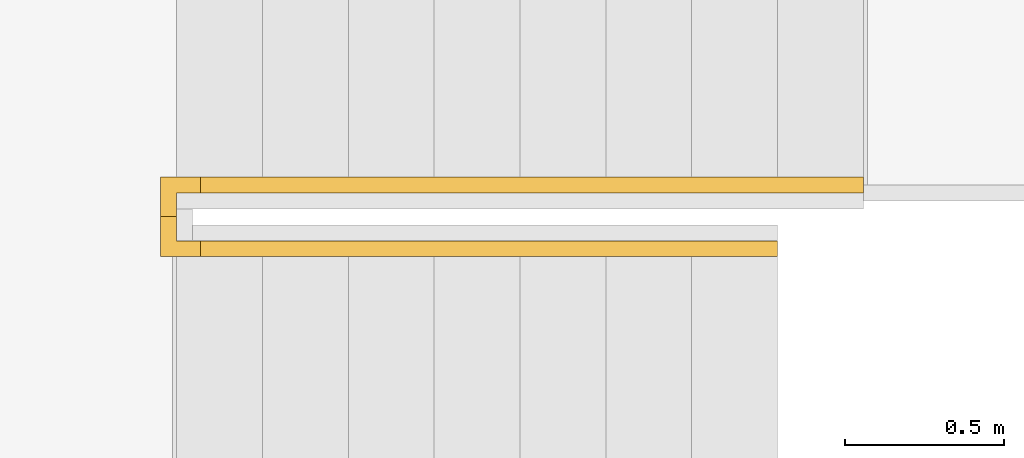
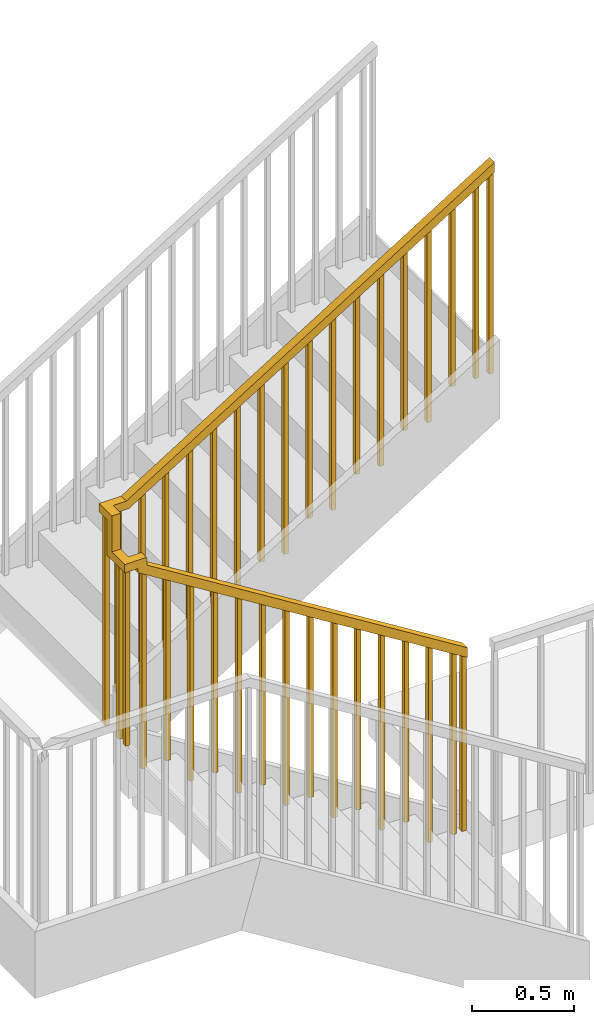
# One storey, part 11 of 14: 1 railing, 1 element without a shape of its own.
"""IFC2X3 building model written with IfcOpenShell, lengths in millimetres."""

from ifc_helpers import new_model, entity, si_unit, converted_unit, derived_unit, direction, frame, origin, place, context, subcontext, project, spatial, faceted_brep, element, aggregate, save


model = new_model("IFC2X3")

# Units and contexts
model_context = context("Model", 3, precision=0.01, world=origin(), true_north=direction((4.05803320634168e-15, -1.0)))
body_context = subcontext(model_context, "Body", "Model", "MODEL_VIEW")
ifc_project = project(units=[si_unit("LENGTHUNIT", "METRE", prefix="MILLI"), si_unit("AREAUNIT", "SQUARE_METRE"), si_unit("VOLUMEUNIT", "CUBIC_METRE"), converted_unit("PLANEANGLEUNIT", "DEGREE", entity("IfcRatioMeasure", 0.0174532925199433), si_unit("PLANEANGLEUNIT", "RADIAN"), dimensions=[0, 0, 0, 0, 0, 0, 0]), si_unit("MASSUNIT", "GRAM", prefix="KILO"), derived_unit("MASSDENSITYUNIT", [(si_unit("MASSUNIT", "GRAM", prefix="KILO"), 1), (si_unit("LENGTHUNIT", "METRE"), -3)]), si_unit("TIMEUNIT", "SECOND"), si_unit("FREQUENCYUNIT", "HERTZ"), si_unit("THERMODYNAMICTEMPERATUREUNIT", "DEGREE_CELSIUS"), derived_unit("THERMALTRANSMITTANCEUNIT", [(si_unit("MASSUNIT", "GRAM", prefix="KILO"), 1), (si_unit("THERMODYNAMICTEMPERATUREUNIT", "KELVIN"), -1), (si_unit("TIMEUNIT", "SECOND"), -3)]), derived_unit("VOLUMETRICFLOWRATEUNIT", [(si_unit("LENGTHUNIT", "METRE"), 3), (si_unit("TIMEUNIT", "SECOND"), -1)]), si_unit("ELECTRICCURRENTUNIT", "AMPERE"), si_unit("ELECTRICVOLTAGEUNIT", "VOLT"), si_unit("POWERUNIT", "WATT"), si_unit("FORCEUNIT", "NEWTON", prefix="KILO"), si_unit("ILLUMINANCEUNIT", "LUX"), si_unit("LUMINOUSFLUXUNIT", "LUMEN"), si_unit("LUMINOUSINTENSITYUNIT", "CANDELA"), derived_unit("USERDEFINED", [(si_unit("MASSUNIT", "GRAM", prefix="KILO"), -1), (si_unit("LENGTHUNIT", "METRE"), -2), (si_unit("TIMEUNIT", "SECOND"), 3), (si_unit("LUMINOUSFLUXUNIT", "LUMEN"), 1)]), derived_unit("LINEARVELOCITYUNIT", [(si_unit("LENGTHUNIT", "METRE"), 1), (si_unit("TIMEUNIT", "SECOND"), -1)]), si_unit("PRESSUREUNIT", "PASCAL"), derived_unit("USERDEFINED", [(si_unit("LENGTHUNIT", "METRE"), -2), (si_unit("MASSUNIT", "GRAM", prefix="KILO"), 1), (si_unit("TIMEUNIT", "SECOND"), -2)])], contexts=[model_context])

# Site, building, storey
site_placement = place(None, frame((927466.849349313, 583801.882853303, 0.0), z_axis=(0.0, 0.0, 1.0), x_axis=(-1.0, 0.0, 0.0)))
site = spatial("IfcSite", under=ifc_project, at=site_placement, Name="Surface", CompositionType="ELEMENT")
building_placement = place(site_placement, origin())
building = spatial("IfcBuilding", under=site, at=building_placement, CompositionType="ELEMENT")
storey_placement = place(building_placement, frame((0.0, 0.0, 48170.0)))
storey = spatial("IfcBuildingStorey", under=building, at=storey_placement, Name="First floor", CompositionType="ELEMENT", Elevation=48170.0)

# Stair, railing
stair_placement = place(storey_placement, origin())
stair = element("IfcStair", 1, at=stair_placement, inside=storey, Name="Assembled Stair:Stair", ObjectType="Assembled Stair:170mm max riser 270mm going 1500", ShapeType="NOTDEFINED")
railing_placement = place(stair_placement, frame((-77968.5913038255, 13246.7010509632, 168.065094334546)))
railing = element("IfcRailing", 2, at=railing_placement, Name="Railing:1100mm", ObjectType="Railing:1100mm", PredefinedType="NOTDEFINED", context=body_context, shape_type="Brep", body=[
    faceted_brep([(105.400000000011, 12.500000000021, 3664.53861803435), (105.400000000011, 12.500000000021, 2520.97641501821), (105.400000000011, 37.5000000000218, 2520.97641501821), (105.400000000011, 37.5000000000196, 3664.53861803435), (80.4000000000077, 37.5000000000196, 2520.97641501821), (80.4000000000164, 37.5000000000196, 3680.10020084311), (80.4000000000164, 12.5000000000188, 2520.97641501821), (80.4000000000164, 12.500000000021, 3680.10020084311)], [[[0, 1, 2, 3]], [[3, 2, 4, 5]], [[5, 4, 6, 7]], [[1, 0, 7, 6]], [[0, 3, 5, 7]], [[2, 1, 6, 4]]]),
    faceted_brep([(240.400000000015, 12.500000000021, 3580.50607086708), (240.400000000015, 12.500000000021, 2520.97641501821), (240.400000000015, 37.5000000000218, 2520.97641501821), (240.400000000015, 37.5000000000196, 3580.50607086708), (215.400000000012, 37.5000000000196, 2520.97641501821), (215.40000000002, 37.5000000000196, 3596.06765367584), (215.40000000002, 12.5000000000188, 2520.97641501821), (215.40000000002, 12.500000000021, 3596.06765367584)], [[[0, 1, 2, 3]], [[3, 2, 4, 5]], [[5, 4, 6, 7]], [[1, 0, 7, 6]], [[0, 3, 5, 7]], [[2, 1, 6, 4]]]),
    faceted_brep([(375.40000000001, 12.5000000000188, 3496.47352369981), (375.40000000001, 12.5000000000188, 2352.91132068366), (375.40000000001, 37.5000000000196, 2352.91132068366), (375.40000000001, 37.5000000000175, 3496.47352369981), (350.400000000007, 37.5000000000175, 2352.91132068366), (350.400000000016, 37.5000000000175, 3512.03510650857), (350.400000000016, 12.5000000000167, 2352.91132068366), (350.400000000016, 12.5000000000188, 3512.03510650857)], [[[0, 1, 2, 3]], [[3, 2, 4, 5]], [[5, 4, 6, 7]], [[1, 0, 7, 6]], [[0, 3, 5, 7]], [[2, 1, 6, 4]]]),
    faceted_brep([(510.400000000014, 12.5000000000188, 3412.44097653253), (510.400000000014, 12.5000000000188, 2352.91132068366), (510.400000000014, 37.5000000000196, 2352.91132068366), (510.400000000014, 37.5000000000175, 3412.44097653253), (485.400000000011, 37.5000000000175, 2352.91132068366), (485.40000000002, 37.5000000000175, 3428.00255934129), (485.40000000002, 12.5000000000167, 2352.91132068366), (485.40000000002, 12.5000000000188, 3428.00255934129)], [[[0, 1, 2, 3]], [[3, 2, 4, 5]], [[5, 4, 6, 7]], [[1, 0, 7, 6]], [[0, 3, 5, 7]], [[2, 1, 6, 4]]]),
    faceted_brep([(645.400000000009, 12.5000000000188, 3328.40842936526), (645.400000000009, 12.5000000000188, 2184.84622634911), (645.400000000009, 37.5000000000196, 2184.84622634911), (645.400000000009, 37.5000000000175, 3328.40842936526), (620.400000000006, 37.5000000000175, 2184.84622634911), (620.400000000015, 37.5000000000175, 3343.97001217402), (620.400000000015, 12.5000000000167, 2184.84622634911), (620.400000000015, 12.5000000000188, 3343.97001217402)], [[[0, 1, 2, 3]], [[3, 2, 4, 5]], [[5, 4, 6, 7]], [[1, 0, 7, 6]], [[0, 3, 5, 7]], [[2, 1, 6, 4]]]),
    faceted_brep([(780.400000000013, 12.5000000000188, 3244.37588219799), (780.400000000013, 12.5000000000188, 2184.84622634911), (780.400000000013, 37.5000000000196, 2184.84622634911), (780.400000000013, 37.5000000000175, 3244.37588219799), (755.40000000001, 37.5000000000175, 2184.84622634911), (755.400000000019, 37.5000000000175, 3259.93746500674), (755.400000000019, 12.5000000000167, 2184.84622634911), (755.400000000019, 12.5000000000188, 3259.93746500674)], [[[0, 1, 2, 3]], [[3, 2, 4, 5]], [[5, 4, 6, 7]], [[1, 0, 7, 6]], [[0, 3, 5, 7]], [[2, 1, 6, 4]]]),
    faceted_brep([(915.400000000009, 12.5000000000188, 3160.34333503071), (915.400000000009, 12.5000000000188, 2016.78113201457), (915.400000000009, 37.5000000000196, 2016.78113201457), (915.400000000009, 37.5000000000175, 3160.34333503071), (890.400000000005, 37.5000000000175, 2016.78113201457), (890.400000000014, 37.5000000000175, 3175.90491783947), (890.400000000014, 12.5000000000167, 2016.78113201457), (890.400000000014, 12.5000000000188, 3175.90491783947)], [[[0, 1, 2, 3]], [[3, 2, 4, 5]], [[5, 4, 6, 7]], [[1, 0, 7, 6]], [[0, 3, 5, 7]], [[2, 1, 6, 4]]]),
    faceted_brep([(1050.40000000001, 12.5000000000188, 3076.31078786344), (1050.40000000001, 12.5000000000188, 2016.78113201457), (1050.40000000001, 37.5000000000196, 2016.78113201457), (1050.40000000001, 37.5000000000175, 3076.31078786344), (1025.40000000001, 37.5000000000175, 2016.78113201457), (1025.40000000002, 37.5000000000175, 3091.8723706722), (1025.40000000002, 12.5000000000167, 2016.78113201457), (1025.40000000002, 12.5000000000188, 3091.8723706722)], [[[0, 1, 2, 3]], [[3, 2, 4, 5]], [[5, 4, 6, 7]], [[1, 0, 7, 6]], [[0, 3, 5, 7]], [[2, 1, 6, 4]]]),
    faceted_brep([(1185.40000000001, 12.5000000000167, 2992.27824069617), (1185.40000000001, 12.5000000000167, 1848.71603768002), (1185.40000000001, 37.5000000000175, 1848.71603768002), (1185.40000000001, 37.5000000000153, 2992.27824069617), (1160.4, 37.5000000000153, 1848.71603768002), (1160.40000000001, 37.5000000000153, 3007.83982350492), (1160.40000000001, 12.5000000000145, 1848.71603768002), (1160.40000000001, 12.5000000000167, 3007.83982350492)], [[[0, 1, 2, 3]], [[3, 2, 4, 5]], [[5, 4, 6, 7]], [[1, 0, 7, 6]], [[0, 3, 5, 7]], [[2, 1, 6, 4]]]),
    faceted_brep([(1320.40000000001, 12.5000000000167, 2908.24569352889), (1320.40000000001, 12.5000000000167, 1848.71603768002), (1320.40000000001, 37.5000000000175, 1848.71603768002), (1320.40000000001, 37.5000000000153, 2908.24569352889), (1295.40000000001, 37.5000000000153, 1848.71603768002), (1295.40000000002, 37.5000000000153, 2923.80727633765), (1295.40000000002, 12.5000000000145, 1848.71603768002), (1295.40000000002, 12.5000000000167, 2923.80727633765)], [[[0, 1, 2, 3]], [[3, 2, 4, 5]], [[5, 4, 6, 7]], [[1, 0, 7, 6]], [[0, 3, 5, 7]], [[2, 1, 6, 4]]]),
    faceted_brep([(1455.40000000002, 12.5000000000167, 2824.21314636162), (1455.40000000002, 12.5000000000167, 1680.65094334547), (1455.40000000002, 37.5000000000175, 1680.65094334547), (1455.40000000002, 37.5000000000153, 2824.21314636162), (1430.40000000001, 37.5000000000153, 1680.65094334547), (1430.40000000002, 37.5000000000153, 2839.77472917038), (1430.40000000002, 12.5000000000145, 1680.65094334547), (1430.40000000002, 12.5000000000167, 2839.77472917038)], [[[0, 1, 2, 3]], [[3, 2, 4, 5]], [[5, 4, 6, 7]], [[1, 0, 7, 6]], [[0, 3, 5, 7]], [[2, 1, 6, 4]]]),
    faceted_brep([(1590.40000000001, 12.5000000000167, 2740.18059919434), (1590.40000000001, 12.5000000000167, 1680.65094334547), (1590.40000000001, 37.5000000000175, 1680.65094334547), (1590.40000000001, 37.5000000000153, 2740.18059919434), (1565.40000000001, 37.5000000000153, 1680.65094334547), (1565.40000000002, 37.5000000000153, 2755.7421820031), (1565.40000000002, 12.5000000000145, 1680.65094334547), (1565.40000000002, 12.5000000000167, 2755.7421820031)], [[[0, 1, 2, 3]], [[3, 2, 4, 5]], [[5, 4, 6, 7]], [[1, 0, 7, 6]], [[0, 3, 5, 7]], [[2, 1, 6, 4]]]),
    faceted_brep([(1725.40000000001, 12.5000000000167, 2656.14805202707), (1725.40000000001, 12.5000000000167, 1512.58584901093), (1725.40000000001, 37.5000000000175, 1512.58584901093), (1725.40000000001, 37.5000000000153, 2656.14805202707), (1700.40000000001, 37.5000000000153, 1512.58584901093), (1700.40000000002, 37.5000000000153, 2671.70963483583), (1700.40000000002, 12.5000000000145, 1512.58584901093), (1700.40000000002, 12.5000000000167, 2671.70963483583)], [[[0, 1, 2, 3]], [[3, 2, 4, 5]], [[5, 4, 6, 7]], [[1, 0, 7, 6]], [[0, 3, 5, 7]], [[2, 1, 6, 4]]]),
    faceted_brep([(1860.40000000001, 12.5000000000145, 2572.1155048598), (1860.40000000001, 12.5000000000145, 1512.58584901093), (1860.40000000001, 37.5000000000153, 1512.58584901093), (1860.40000000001, 37.5000000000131, 2572.1155048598), (1835.40000000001, 37.5000000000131, 1512.58584901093), (1835.40000000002, 37.5000000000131, 2587.67708766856), (1835.40000000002, 12.5000000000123, 1512.58584901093), (1835.40000000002, 12.5000000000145, 2587.67708766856)], [[[0, 1, 2, 3]], [[3, 2, 4, 5]], [[5, 4, 6, 7]], [[1, 0, 7, 6]], [[0, 3, 5, 7]], [[2, 1, 6, 4]]]),
    faceted_brep([(1995.40000000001, 12.5000000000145, 2488.08295769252), (1995.40000000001, 12.5000000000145, 1344.52075467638), (1995.40000000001, 37.5000000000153, 1344.52075467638), (1995.40000000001, 37.5000000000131, 2488.08295769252), (1970.40000000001, 37.5000000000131, 1344.52075467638), (1970.40000000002, 37.5000000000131, 2503.64454050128), (1970.40000000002, 12.5000000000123, 1344.52075467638), (1970.40000000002, 12.5000000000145, 2503.64454050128)], [[[0, 1, 2, 3]], [[3, 2, 4, 5]], [[5, 4, 6, 7]], [[1, 0, 7, 6]], [[0, 3, 5, 7]], [[2, 1, 6, 4]]]),
    faceted_brep([(2130.40000000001, 12.5000000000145, 2440.95651777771), (2130.40000000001, 12.5000000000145, 1344.52075467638), (2130.40000000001, 37.5000000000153, 1344.52075467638), (2130.40000000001, 37.5000000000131, 2440.95651777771), (2105.40000000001, 37.5000000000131, 1344.52075467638), (2105.40000000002, 37.5000000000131, 2440.95651777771), (2105.40000000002, 12.5000000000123, 1344.52075467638), (2105.40000000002, 12.5000000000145, 2440.95651777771)], [[[0, 1, 2, 3]], [[3, 2, 4, 5]], [[5, 4, 6, 7]], [[1, 0, 7, 6]], [[0, 3, 5, 7]], [[2, 1, 6, 4]]]),
    faceted_brep([(2197.90000000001, 171.169275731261, 2226.45566034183), (2197.90000000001, 171.169275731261, 1176.45566034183), (2172.90000000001, 171.169275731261, 1176.45566034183), (2172.90000000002, 171.169275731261, 2226.45566034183), (2172.90000000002, 146.16927573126, 1176.45566034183), (2172.90000000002, 146.169275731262, 2226.45566034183), (2197.90000000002, 146.169275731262, 1176.45566034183), (2197.90000000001, 146.169275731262, 2226.45566034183)], [[[0, 1, 2, 3]], [[3, 2, 4, 5]], [[5, 4, 6, 7]], [[1, 0, 7, 6]], [[0, 3, 5, 7]], [[2, 1, 6, 4]]]),
    faceted_brep([(2080.0, 238.669275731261, 2226.45566034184), (2080.0, 238.669275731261, 1008.39056600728), (2080.0, 213.66927573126, 1008.39056600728), (2080.0, 213.669275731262, 2226.45566034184), (2105.0, 213.669275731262, 1008.39056600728), (2105.0, 213.669275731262, 2226.45566034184), (2105.0, 238.669275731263, 1008.39056600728), (2105.0, 238.669275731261, 2226.45566034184)], [[[0, 1, 2, 3]], [[3, 2, 4, 5]], [[5, 4, 6, 7]], [[1, 0, 7, 6]], [[0, 3, 5, 7]], [[2, 1, 6, 4]]]),
    faceted_brep([(1945.0, 238.669275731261, 2083.73078998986), (1945.0, 238.669275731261, 1008.39056600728), (1945.0, 213.66927573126, 1008.39056600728), (1945.0, 213.669275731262, 2083.73078998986), (1970.0, 213.669275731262, 1008.39056600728), (1970.0, 213.669275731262, 2099.29237279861), (1970.0, 238.669275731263, 1008.39056600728), (1970.0, 238.669275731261, 2099.29237279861)], [[[0, 1, 2, 3]], [[3, 2, 4, 5]], [[5, 4, 6, 7]], [[1, 0, 7, 6]], [[0, 3, 5, 7]], [[2, 1, 6, 4]]]),
    faceted_brep([(1810.0, 238.669275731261, 1999.69824282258), (1810.0, 238.669275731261, 840.325471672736), (1810.0, 213.66927573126, 840.325471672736), (1810.0, 213.669275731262, 1999.69824282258), (1835.0, 213.669275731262, 840.325471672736), (1835.0, 213.669275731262, 2015.25982563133), (1835.0, 238.669275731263, 840.325471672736), (1835.0, 238.669275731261, 2015.25982563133)], [[[0, 1, 2, 3]], [[3, 2, 4, 5]], [[5, 4, 6, 7]], [[1, 0, 7, 6]], [[0, 3, 5, 7]], [[2, 1, 6, 4]]]),
    faceted_brep([(1675.0, 238.669275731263, 1915.66569565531), (1675.0, 238.669275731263, 840.325471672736), (1675.0, 213.669275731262, 840.325471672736), (1675.0, 213.669275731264, 1915.66569565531), (1700.0, 213.669275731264, 840.325471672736), (1700.0, 213.669275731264, 1931.22727846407), (1700.0, 238.669275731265, 840.325471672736), (1700.0, 238.669275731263, 1931.22727846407)], [[[0, 1, 2, 3]], [[3, 2, 4, 5]], [[5, 4, 6, 7]], [[1, 0, 7, 6]], [[0, 3, 5, 7]], [[2, 1, 6, 4]]]),
    faceted_brep([(1540.0, 238.669275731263, 1831.63314848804), (1540.0, 238.669275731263, 672.260377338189), (1540.0, 213.669275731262, 672.260377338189), (1540.0, 213.669275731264, 1831.63314848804), (1565.0, 213.669275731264, 672.260377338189), (1565.0, 213.669275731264, 1847.19473129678), (1565.0, 238.669275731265, 672.260377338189), (1565.0, 238.669275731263, 1847.19473129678)], [[[0, 1, 2, 3]], [[3, 2, 4, 5]], [[5, 4, 6, 7]], [[1, 0, 7, 6]], [[0, 3, 5, 7]], [[2, 1, 6, 4]]]),
    faceted_brep([(1405.0, 238.669275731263, 1747.60060132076), (1405.0, 238.669275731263, 672.260377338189), (1405.0, 213.669275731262, 672.260377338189), (1405.0, 213.669275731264, 1747.60060132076), (1430.0, 213.669275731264, 672.260377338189), (1430.0, 213.669275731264, 1763.16218412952), (1430.0, 238.669275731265, 672.260377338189), (1430.0, 238.669275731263, 1763.16218412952)], [[[0, 1, 2, 3]], [[3, 2, 4, 5]], [[5, 4, 6, 7]], [[1, 0, 7, 6]], [[0, 3, 5, 7]], [[2, 1, 6, 4]]]),
    faceted_brep([(1270.0, 238.669275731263, 1663.56805415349), (1270.0, 238.669275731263, 504.195283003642), (1270.0, 213.669275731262, 504.195283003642), (1270.0, 213.669275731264, 1663.56805415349), (1295.0, 213.669275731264, 504.195283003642), (1295.0, 213.669275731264, 1679.12963696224), (1295.0, 238.669275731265, 504.195283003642), (1295.0, 238.669275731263, 1679.12963696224)], [[[0, 1, 2, 3]], [[3, 2, 4, 5]], [[5, 4, 6, 7]], [[1, 0, 7, 6]], [[0, 3, 5, 7]], [[2, 1, 6, 4]]]),
    faceted_brep([(1135.0, 238.669275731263, 1579.53550698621), (1135.0, 238.669275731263, 504.195283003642), (1135.0, 213.669275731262, 504.195283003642), (1135.0, 213.669275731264, 1579.53550698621), (1160.0, 213.669275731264, 504.195283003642), (1160.0, 213.669275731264, 1595.09708979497), (1160.0, 238.669275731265, 504.195283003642), (1160.0, 238.669275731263, 1595.09708979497)], [[[0, 1, 2, 3]], [[3, 2, 4, 5]], [[5, 4, 6, 7]], [[1, 0, 7, 6]], [[0, 3, 5, 7]], [[2, 1, 6, 4]]]),
    faceted_brep([(1000.0, 238.669275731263, 1495.50295981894), (1000.0, 238.669275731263, 336.130188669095), (1000.0, 213.669275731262, 336.130188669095), (1000.0, 213.669275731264, 1495.50295981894), (1025.0, 213.669275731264, 336.130188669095), (1025.0, 213.669275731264, 1511.06454262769), (1025.0, 238.669275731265, 336.130188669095), (1025.0, 238.669275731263, 1511.06454262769)], [[[0, 1, 2, 3]], [[3, 2, 4, 5]], [[5, 4, 6, 7]], [[1, 0, 7, 6]], [[0, 3, 5, 7]], [[2, 1, 6, 4]]]),
    faceted_brep([(865.0, 238.669275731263, 1411.47041265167), (865.0, 238.669275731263, 336.130188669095), (865.0, 213.669275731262, 336.130188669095), (865.0, 213.669275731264, 1411.47041265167), (890.0, 213.669275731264, 336.130188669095), (890.0, 213.669275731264, 1427.03199546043), (890.0, 238.669275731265, 336.130188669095), (890.0, 238.669275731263, 1427.03199546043)], [[[0, 1, 2, 3]], [[3, 2, 4, 5]], [[5, 4, 6, 7]], [[1, 0, 7, 6]], [[0, 3, 5, 7]], [[2, 1, 6, 4]]]),
    faceted_brep([(730.0, 238.669275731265, 1327.43786548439), (730.0, 238.669275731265, 168.065094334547), (730.0, 213.669275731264, 168.065094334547), (730.0, 213.669275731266, 1327.43786548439), (755.0, 213.669275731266, 168.065094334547), (755.0, 213.669275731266, 1342.99944829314), (755.0, 238.669275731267, 168.065094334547), (755.0, 238.669275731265, 1342.99944829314)], [[[0, 1, 2, 3]], [[3, 2, 4, 5]], [[5, 4, 6, 7]], [[1, 0, 7, 6]], [[0, 3, 5, 7]], [[2, 1, 6, 4]]]),
    faceted_brep([(595.0, 238.669275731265, 1243.40531831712), (595.0, 238.669275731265, 168.065094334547), (595.0, 213.669275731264, 168.065094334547), (595.0, 213.669275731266, 1243.40531831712), (620.0, 213.669275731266, 168.065094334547), (620.0, 213.669275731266, 1258.96690112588), (620.0, 238.669275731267, 168.065094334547), (620.0, 238.669275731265, 1258.96690112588)], [[[0, 1, 2, 3]], [[3, 2, 4, 5]], [[5, 4, 6, 7]], [[1, 0, 7, 6]], [[0, 3, 5, 7]], [[2, 1, 6, 4]]]),
    faceted_brep([(460.0, 238.669275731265, 1159.37277114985), (460.0, 238.669275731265, 0.0), (460.0, 213.669275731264, 0.0), (460.0, 213.669275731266, 1159.37277114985), (485.0, 213.669275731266, 0.0), (485.0, 213.669275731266, 1174.9343539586), (485.0, 238.669275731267, 0.0), (485.0, 238.669275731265, 1174.9343539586)], [[[0, 1, 2, 3]], [[3, 2, 4, 5]], [[5, 4, 6, 7]], [[1, 0, 7, 6]], [[0, 3, 5, 7]], [[2, 1, 6, 4]]]),
    faceted_brep([(325.0, 238.669275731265, 1075.34022398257), (325.0, 238.669275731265, 0.0), (325.0, 213.669275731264, 0.0), (325.0, 213.669275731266, 1075.34022398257), (350.0, 213.669275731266, 0.0), (350.0, 213.669275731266, 1090.90180679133), (350.0, 238.669275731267, 0.0), (350.0, 238.669275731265, 1090.90180679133)], [[[0, 1, 2, 3]], [[3, 2, 4, 5]], [[5, 4, 6, 7]], [[1, 0, 7, 6]], [[0, 3, 5, 7]], [[2, 1, 6, 4]]]),
    faceted_brep([(2197.90000000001, 37.5000000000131, 2440.95651777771), (2197.90000000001, 37.5000000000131, 1176.45566034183), (2172.90000000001, 37.5000000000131, 1176.45566034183), (2172.90000000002, 37.5000000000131, 2440.95651777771), (2172.90000000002, 12.5000000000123, 1176.45566034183), (2172.90000000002, 12.5000000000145, 2440.95651777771), (2197.90000000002, 12.5000000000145, 1176.45566034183), (2197.90000000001, 12.5000000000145, 2440.95651777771)], [[[0, 1, 2, 3]], [[3, 2, 4, 5]], [[5, 4, 6, 7]], [[1, 0, 7, 6]], [[0, 3, 5, 7]], [[2, 1, 6, 4]]]),
    faceted_brep([(2172.90000000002, 238.669275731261, 2226.45566034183), (2172.90000000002, 238.669275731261, 1176.45566034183), (2172.90000000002, 213.66927573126, 1176.45566034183), (2172.90000000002, 213.669275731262, 2226.45566034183), (2197.90000000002, 213.669275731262, 1176.45566034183), (2197.90000000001, 213.669275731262, 2226.45566034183), (2197.90000000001, 238.669275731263, 1176.45566034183), (2197.90000000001, 238.669275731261, 2226.45566034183)], [[[0, 1, 2, 3]], [[3, 2, 4, 5]], [[5, 4, 6, 7]], [[1, 0, 7, 6]], [[0, 3, 5, 7]], [[2, 1, 6, 4]]]),
    faceted_brep([(25.0, 12.500000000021, 3714.58466834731), (25.0, 12.500000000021, 2520.97641501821), (25.0, 37.5000000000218, 2520.97641501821), (25.0, 37.5000000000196, 3714.58466834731), (0.0, 37.5000000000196, 2520.97641501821), (0.0, 37.5000000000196, 3730.14625115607), (0.0, 12.5000000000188, 2520.97641501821), (0.0, 12.500000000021, 3730.14625115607)], [[[0, 1, 2, 3]], [[3, 2, 4, 5]], [[5, 4, 6, 7]], [[1, 0, 7, 6]], [[0, 3, 5, 7]], [[2, 1, 6, 4]]]),
    faceted_brep([(270.0, 238.669275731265, 1041.10474180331), (270.0, 238.669275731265, 0.0), (270.0, 213.669275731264, 0.0), (270.0, 213.669275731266, 1041.10474180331), (295.0, 213.669275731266, 0.0), (295.0, 213.669275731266, 1056.66632461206), (295.0, 238.669275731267, 0.0), (295.0, 238.669275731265, 1056.66632461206)], [[[0, 1, 2, 3]], [[3, 2, 4, 5]], [[5, 4, 6, 7]], [[1, 0, 7, 6]], [[0, 3, 5, 7]], [[2, 1, 6, 4]]]),
    faceted_brep([(270.0, 251.169275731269, 1100.0), (270.0, 251.169275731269, 1041.10474180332), (270.0, 201.169275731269, 1041.10474180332), (270.0, 201.169275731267, 1100.0), (2085.39999999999, 251.169275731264, 2230.01989724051), (2135.39999999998, 251.169275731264, 2202.24780466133), (2135.39999999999, 201.169275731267, 2202.24780466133), (2085.39999999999, 201.169275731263, 2230.01989724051), (2210.40000000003, 126.16927573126, 2226.45566034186), (2210.40000000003, 126.16927573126, 2276.45566034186), (2210.40000000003, 125.0, 2276.45566034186), (2210.40000000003, 75.0, 2226.45566034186), (2160.40000000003, 126.16927573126, 2226.45566034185), (2160.40000000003, 75.0, 2226.45566034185), (2160.40000000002, 126.16927573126, 2276.45566034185), (2160.40000000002, 125.0, 2276.45566034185), (0.0, 0.0, 3789.04150935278), (0.0, 50.0, 3789.04150935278), (0.0, 50.0, 3730.14625115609), (0.0, 0.0, 3730.14625115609), (2071.10958638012, 0.0, 2440.95651777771), (2085.40000000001, 0.0, 2490.9565177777), (2071.10958638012, 50.0, 2440.95651777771), (2085.40000000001, 50.0, 2490.9565177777), (2085.39999999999, 251.169275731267, 2276.45566034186), (2135.39999999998, 251.169275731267, 2226.45566034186), (2135.39999999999, 201.169275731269, 2226.45566034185), (2085.39999999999, 201.169275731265, 2276.45566034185), (2210.40000000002, 251.169275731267, 2276.45566034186), (2210.40000000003, 251.169275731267, 2226.45566034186), (2160.40000000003, 201.169275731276, 2226.45566034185), (2160.40000000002, 201.169275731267, 2276.45566034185), (2210.40000000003, 125.0, 2490.95651777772), (2210.40000000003, 75.0, 2440.95651777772), (2160.40000000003, 75.0, 2440.95651777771), (2160.40000000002, 125.0, 2490.95651777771), (2210.40000000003, 0.0, 2490.95651777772), (2210.40000000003, 0.0, 2440.95651777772), (2160.40000000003, 50.0, 2440.95651777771), (2160.40000000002, 50.0, 2490.95651777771)], [[[0, 1, 2, 3]], [[1, 0, 4, 5]], [[2, 1, 5, 6]], [[3, 2, 6, 7]], [[0, 3, 7, 4]], [[8, 9, 10, 11]], [[12, 8, 11, 13]], [[14, 12, 13, 15]], [[9, 14, 15, 10]], [[16, 17, 18, 19]], [[20, 21, 16, 19]], [[22, 20, 19, 18]], [[23, 22, 18, 17]], [[21, 23, 17, 16]], [[5, 4, 24, 25]], [[6, 5, 25, 26]], [[7, 6, 26, 27]], [[4, 7, 27, 24]], [[25, 24, 28, 29]], [[26, 25, 29, 30]], [[27, 26, 30, 31]], [[24, 27, 31, 28]], [[29, 28, 9, 8]], [[30, 29, 8, 12]], [[31, 30, 12, 14]], [[28, 31, 14, 9]], [[11, 10, 32, 33]], [[13, 11, 33, 34]], [[15, 13, 34, 35]], [[10, 15, 35, 32]], [[33, 32, 36, 37]], [[34, 33, 37, 38]], [[35, 34, 38, 39]], [[32, 35, 39, 36]], [[37, 36, 21, 20]], [[38, 37, 20, 22]], [[39, 38, 22, 23]], [[36, 39, 23, 21]]]),
])
aggregate(stair, [railing])

save(model, "model.ifc")
